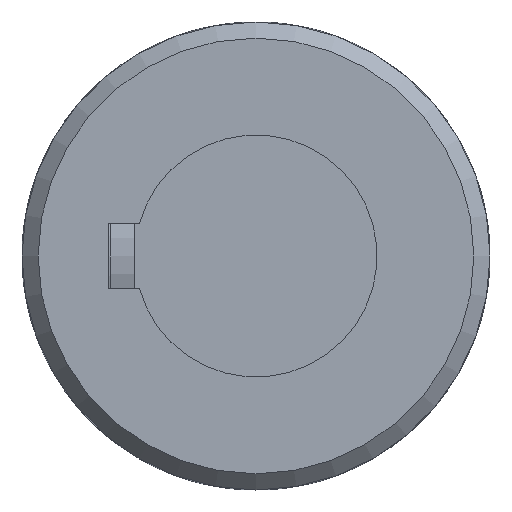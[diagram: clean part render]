
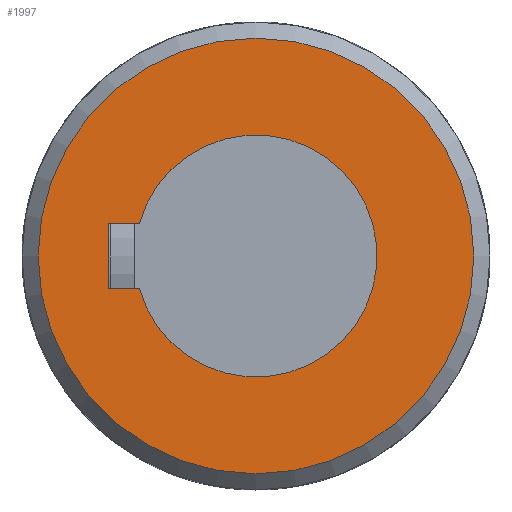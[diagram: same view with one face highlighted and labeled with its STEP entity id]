
A CAD part, front view. The second image highlights one B-rep face of the part: STEP entity #1997.
In plain terms, the highlighted planar face has unit normal (0, -1, 0).
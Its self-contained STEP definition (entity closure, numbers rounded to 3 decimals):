
#123=LINE('',#3657,#192);
#127=LINE('',#3680,#196);
#129=LINE('',#3688,#198);
#192=VECTOR('',#2557,3.843);
#196=VECTOR('',#2569,8.);
#198=VECTOR('',#2573,3.843);
#260=PLANE('',#2186);
#437=FACE_BOUND('',#695,.T.);
#532=FACE_OUTER_BOUND('',#694,.T.);
#694=EDGE_LOOP('',(#1677));
#695=EDGE_LOOP('',(#1678,#1679,#1680,#1681));
#818=CIRCLE('',#2173,15.);
#824=CIRCLE('',#2184,27.);
#972=VERTEX_POINT('',#3654);
#973=VERTEX_POINT('',#3656);
#976=VERTEX_POINT('',#3666);
#978=VERTEX_POINT('',#3678);
#987=VERTEX_POINT('',#3767);
#1214=EDGE_CURVE('',#973,#972,#123,.T.);
#1218=EDGE_CURVE('',#976,#973,#818,.T.);
#1222=EDGE_CURVE('',#972,#978,#127,.T.);
#1225=EDGE_CURVE('',#978,#976,#129,.T.);
#1235=EDGE_CURVE('',#987,#987,#824,.T.);
#1677=ORIENTED_EDGE('',*,*,#1235,.F.);
#1678=ORIENTED_EDGE('',*,*,#1214,.T.);
#1679=ORIENTED_EDGE('',*,*,#1222,.T.);
#1680=ORIENTED_EDGE('',*,*,#1225,.T.);
#1681=ORIENTED_EDGE('',*,*,#1218,.T.);
#1997=ADVANCED_FACE('',(#532,#437),#260,.F.);
#2173=AXIS2_PLACEMENT_3D('',#3667,#2563,#2564);
#2184=AXIS2_PLACEMENT_3D('',#3768,#2590,#2591);
#2186=AXIS2_PLACEMENT_3D('',#3976,#2598,#2599);
#2557=DIRECTION('',(0.,0.,-1.));
#2563=DIRECTION('center_axis',(0.,1.,0.));
#2564=DIRECTION('ref_axis',(-0.267,0.,0.964));
#2569=DIRECTION('',(-1.,0.,0.));
#2573=DIRECTION('',(0.,0.,1.));
#2590=DIRECTION('center_axis',(0.,1.,0.));
#2591=DIRECTION('ref_axis',(1.,0.,0.));
#2598=DIRECTION('center_axis',(0.,1.,0.));
#2599=DIRECTION('ref_axis',(0.,0.,1.));
#3654=CARTESIAN_POINT('',(4.,-75.5,-18.3));
#3656=CARTESIAN_POINT('',(4.,-75.5,-14.457));
#3657=CARTESIAN_POINT('',(4.,-75.5,-7.228));
#3666=CARTESIAN_POINT('',(-4.,-75.5,-14.457));
#3667=CARTESIAN_POINT('Origin',(0.,-75.5,0.));
#3678=CARTESIAN_POINT('',(-4.,-75.5,-18.3));
#3680=CARTESIAN_POINT('',(2.,-75.5,-18.3));
#3688=CARTESIAN_POINT('',(-4.,-75.5,-9.15));
#3767=CARTESIAN_POINT('',(-27.,-75.5,0.));
#3768=CARTESIAN_POINT('Origin',(0.,-75.5,0.));
#3976=CARTESIAN_POINT('Origin',(0.,-75.5,0.));
